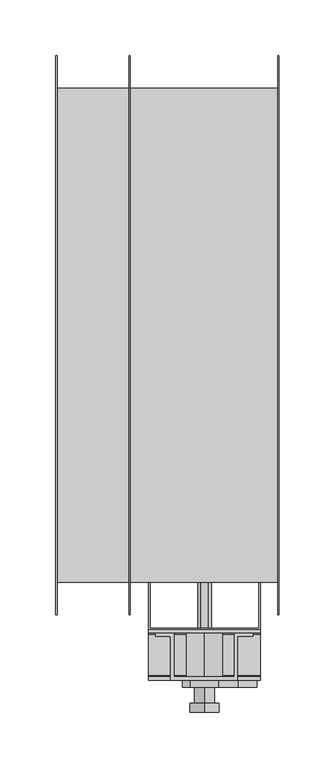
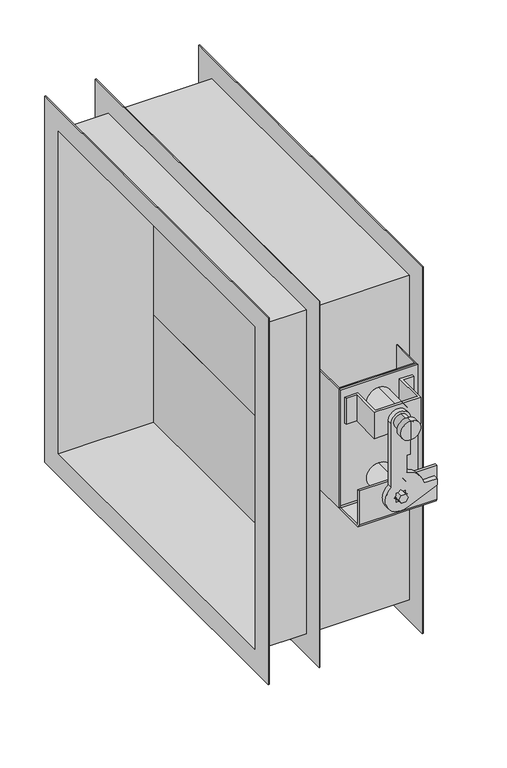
"""IFC4 building model written with IfcOpenShell, lengths in millimetres: damper geometry, СВ_КлапанПротивопожарныйЛифтовой_КДМ-2М-3-ЛС_НЗ_КанальныйПрямоугольный_СВОК : КДМ-3_Привод ЭМ."""

from ifc_helpers import new_model, si_unit, frame, origin, place, context, project, spatial, polyline, circle_curve, outline, extrude, faceted_brep, source, transform, mapped, element, save
from ifc_brep_helpers import plane_surface, cylinder_surface, revolved_surface, advanced_brep


def damper_64d2bc8e(model_context):
    return source(origin(), model_context, "Body", "SolidModel", [
        extrude(outline(polyline([(43.3, -220.0), (23.3, -220.0), (23.3, 220.0), (43.3, 220.0), (43.3, -220.0)])), frame((0.0, 0.0, 73.3333333), z_axis=(0.0, 0.0, 1.0), x_axis=(1.0, 0.0, 0.0)), (0.0, 0.0, 1.0), 146.6666667),
        extrude(outline(polyline([(43.3, -220.0), (23.3, -220.0), (23.3, 220.0), (43.3, 220.0), (43.3, -220.0)])), frame((0.0, 0.0, -73.3333333), z_axis=(0.0, 0.0, 1.0), x_axis=(1.0, 0.0, 0.0)), (0.0, 0.0, 1.0), 146.6666667),
        extrude(outline(polyline([(43.3, -220.0), (23.3, -220.0), (23.3, 220.0), (43.3, 220.0), (43.3, -220.0)])), frame((0.0, 0.0, -220.0), z_axis=(0.0, 0.0, 1.0), x_axis=(1.0, 0.0, 0.0)), (0.0, 0.0, 1.0), 146.6666667),
        extrude(outline(polyline([(-15.5298911, -221.2), (-15.5298911, -262.0), (82.1, -262.0), (82.1, -221.2), (83.3, -221.2), (83.3, -263.2), (-16.7298911, -263.2), (-16.7298911, -221.2), (-15.5298911, -221.2)])), frame((0.0, 0.0, -30.0), z_axis=(0.0, 0.0, 1.0), x_axis=(1.0, 0.0, 0.0)), (0.0, 0.0, 1.0), 162.5),
        advanced_brep(
        [(33.3, -337.2, 115.8717586), (33.3, -337.2, 90.1282414), (33.3, -337.2, 103.0), (33.3, -329.322975, 115.8717586), (33.3, -329.322975, 90.1282414), (33.3, -329.322975, 112.0972194), (33.3, -329.322975, 93.9027806), (33.3, -315.2, 112.0972194), (33.3, -315.2, 93.9027806), (33.3, -315.2, 103.0)],
        [
            (0, 1, circle_curve(frame((33.3, -337.2, 103.0), z_axis=(0.0, -1.0, 0.0), x_axis=(0.0, 0.0, -1.0)), 12.8717586)),
            (1, 2),
            (2, 0),
            (1, 0, circle_curve(frame((33.3, -337.2, 103.0), z_axis=(0.0, -1.0, 0.0), x_axis=(0.0, 0.0, -1.0)), 12.8717586)),
            (3, 4, circle_curve(frame((33.3, -329.322975, 103.0), z_axis=(0.0, -1.0, 0.0), x_axis=(0.0, 0.0, -1.0)), 12.8717586)),
            (4, 1),
            (0, 3),
            (4, 3, circle_curve(frame((33.3, -329.322975, 103.0), z_axis=(0.0, -1.0, 0.0), x_axis=(0.0, 0.0, -1.0)), 12.8717586)),
            (5, 6, circle_curve(frame((33.3, -329.322975, 103.0), z_axis=(0.0, -1.0, 0.0), x_axis=(0.0, 0.0, -1.0)), 9.0972194)),
            (6, 4),
            (3, 5),
            (6, 5, circle_curve(frame((33.3, -329.322975, 103.0), z_axis=(0.0, -1.0, 0.0), x_axis=(0.0, 0.0, -1.0)), 9.0972194)),
            (7, 8, circle_curve(frame((33.3, -315.2, 103.0), z_axis=(0.0, -1.0, 0.0), x_axis=(0.0, 0.0, -1.0)), 9.0972194)),
            (8, 6),
            (5, 7),
            (8, 7, circle_curve(frame((33.3, -315.2, 103.0), z_axis=(0.0, -1.0, 0.0), x_axis=(0.0, 0.0, -1.0)), 9.0972194)),
            (9, 8),
            (7, 9),
        ],
        [
            plane_surface(frame((33.3, -337.2, 103.0), z_axis=(0.0, -1.0, 0.0), x_axis=(0.0, 0.0, -1.0))),
            cylinder_surface(frame((33.3, -315.2, 103.0), z_axis=(0.0, 1.0, 0.0), x_axis=(0.0, 0.0, -1.0)), 12.8717586),
            plane_surface(frame((33.3, -329.322975, 103.0), z_axis=(0.0, 1.0, 0.0), x_axis=(0.0, 0.0, -1.0))),
            cylinder_surface(frame((33.3, -315.2, 103.0), z_axis=(0.0, 1.0, 0.0), x_axis=(0.0, 0.0, -1.0)), 9.0972194),
            plane_surface(frame((33.3, -315.2, 103.0), z_axis=(0.0, 1.0, 0.0), x_axis=(0.0, 0.0, -1.0))),
        ],
        [
            (0, [[1, 2, 3]]),
            (0, [[4, -3, -2]]),
            (1, [[5, 6, -1, 7]]),
            (1, [[8, -7, -4, -6]]),
            (2, [[9, 10, -5, 11]]),
            (2, [[12, -11, -8, -10]]),
            (3, [[13, 14, -9, 15]]),
            (3, [[16, -15, -12, -14]]),
            (4, [[17, -13, 18]]),
            (4, [[-18, -16, -17]]),
        ],
    ),
        advanced_brep(
        [(2.92629, -308.6632523, 120.900028), (62.92629, -308.6632523, 120.900028), (62.92629, -269.2, 120.900028), (76.4888336, -269.2, 120.900028), (76.4888336, -266.2, 120.900028), (59.92629, -266.2, 120.900028), (59.92629, -305.6632523, 120.900028), (32.92629, -305.6632523, 120.900028), (5.92629, -305.6632523, 120.900028), (5.92629, -266.2, 120.900028), (-10.6362537, -266.2, 120.900028), (-10.6362537, -269.2, 120.900028), (2.92629, -269.2, 120.900028), (2.92629, -308.6632523, 85.2906263), (2.92629, -269.2, 85.2906263), (-10.6362537, -269.2, 85.2906263), (-10.6362537, -266.2, 85.2906263), (5.92629, -266.2, 85.2906263), (5.92629, -305.6632523, 85.2906263), (32.92629, -305.6632523, 85.2906263), (59.92629, -305.6632523, 85.2906263), (59.92629, -266.2, 85.2906263), (76.4888336, -266.2, 85.2906263), (76.4888336, -269.2, 85.2906263), (62.92629, -269.2, 85.2906263), (62.92629, -308.6632523, 85.2906263), (45.7468236, -308.6632523, 85.2906263), (32.92629, -308.6632523, 85.2906263), (20.8531764, -308.6632523, 85.2906263), (32.92629, -305.6632523, 87.0153496), (33.3, -305.6632523, 87.0109817), (33.3, -305.6632523, 118.9890183), (32.92629, -305.6632523, 118.9846504), (20.8531764, -315.2, 103.0), (20.8531764, -315.2, 15.654922), (41.6218794, -315.2, -18.1864324), (80.0904973, -315.2, -0.5836838), (80.0904973, -315.2, 7.3717785), (63.5857987, -315.2, 7.3717785), (40.9533426, -315.2, 30.2158745), (40.9533426, -315.2, 53.0), (45.7468236, -315.2, 53.0), (45.7468236, -315.2, 103.0), (24.8147186, -315.2, 0.0), (27.3045537, -315.2, 2.4898351), (27.3045537, -315.2, 5.9954463), (30.8101649, -315.2, 5.9954463), (33.3, -315.2, 8.4852814), (35.7898351, -315.2, 5.9954463), (39.2954463, -315.2, 5.9954463), (39.2954463, -315.2, 2.4898351), (41.7852814, -315.2, 0.0), (39.2954463, -315.2, -2.4898351), (39.2954463, -315.2, -5.9954463), (35.7898351, -315.2, -5.9954463), (33.3, -315.2, -8.4852814), (30.8101649, -315.2, -5.9954463), (27.3045537, -315.2, -5.9954463), (27.3045537, -315.2, -2.4898351), (45.7468236, -308.6632523, 53.0), (40.9533426, -308.6632523, 53.0), (40.9533426, -308.6632523, 30.2158745), (56.6544986, -308.6632523, 20.6431616), (20.8531764, -308.6632523, 20.6431616), (45.7468236, -308.6632523, 103.0), (20.8531764, -308.6632523, 103.0), (20.8531764, -308.6632523, 15.654922), (41.6218794, -308.6632523, -18.1864324), (80.0904973, -308.6632523, -0.5836838), (80.0904973, -308.6632523, 7.3717785), (63.5857987, -308.6632523, 7.3717785), (33.3, -305.6632523, -15.9890183), (33.3, -266.2, -15.9890183), (33.3, -266.2, 15.9890183), (33.3, -305.6632523, 15.9890183), (33.3, -266.2, 87.0109817), (33.3, -266.2, 118.9890183), (83.3, -263.2, -25.5), (83.3, -263.2, 132.5), (83.3, -266.2, 132.5), (83.3, -266.2, -25.5), (83.3, -267.7, -27.0), (83.3, -304.1337407, -27.0), (83.3, -305.6632523, -25.4704884), (83.3, -305.6632523, 20.6431616), (83.3, -308.6632523, 20.6431616), (83.3, -308.6632523, -25.4704884), (83.3, -304.1337407, -30.0), (83.3, -267.7, -30.0), (-16.7, -263.2, -25.5), (-16.7, -267.7, -30.0), (-16.7, -304.1337407, -30.0), (-16.7, -308.6632523, -25.4704884), (-16.7, -308.6632523, 20.6431616), (-16.7, -305.6632523, 20.6431616), (-16.7, -305.6632523, -25.4704884), (-16.7, -304.1337407, -27.0), (-16.7, -267.7, -27.0), (-16.7, -266.2, -25.5), (-16.7, -266.2, 132.5), (-16.7, -263.2, 132.5), (27.3045537, -263.2, 2.4898351), (24.8147186, -263.2, 0.0), (27.3045537, -263.2, -2.4898351), (27.3045537, -263.2, -5.9954463), (30.8101649, -263.2, -5.9954463), (33.3, -263.2, -8.4852814), (35.7898351, -263.2, -5.9954463), (39.2954463, -263.2, -5.9954463), (39.2954463, -263.2, -2.4898351), (41.7852814, -263.2, 0.0), (39.2954463, -263.2, 2.4898351), (39.2954463, -263.2, 5.9954463), (35.7898351, -263.2, 5.9954463), (33.3, -263.2, 8.4852814), (30.8101649, -263.2, 5.9954463), (27.3045537, -263.2, 5.9954463)],
        [
            (0, 1),
            (1, 2),
            (2, 3),
            (3, 4),
            (4, 5),
            (5, 6),
            (6, 7),
            (7, 8),
            (8, 9),
            (9, 10),
            (10, 11),
            (11, 12),
            (12, 0),
            (13, 14),
            (14, 15),
            (15, 16),
            (16, 17),
            (17, 18),
            (18, 19),
            (19, 20),
            (20, 21),
            (21, 22),
            (22, 23),
            (23, 24),
            (24, 25),
            (25, 26),
            (26, 27),
            (27, 28),
            (28, 13),
            (1, 25),
            (24, 2),
            (23, 3),
            (22, 4),
            (5, 21),
            (20, 6),
            (19, 29),
            (29, 30, circle_curve(frame((33.3, -305.6632523, 103.0), z_axis=(0.0, -1.0, 0.0), x_axis=(0.0, 0.0, 1.0)), 15.9890183)),
            (30, 31, circle_curve(frame((33.3, -305.6632523, 103.0), z_axis=(0.0, -1.0, 0.0), x_axis=(0.0, 0.0, 1.0)), 15.9890183)),
            (31, 32, circle_curve(frame((33.3, -305.6632523, 103.0), z_axis=(0.0, -1.0, 0.0), x_axis=(0.0, 0.0, 1.0)), 15.9890183)),
            (32, 7),
            (32, 29, circle_curve(frame((33.3, -305.6632523, 103.0), z_axis=(0.0, -1.0, 0.0), x_axis=(0.0, 0.0, 1.0)), 15.9890183)),
            (18, 8),
            (17, 9),
            (10, 16),
            (15, 11),
            (14, 12),
            (13, 0),
            (33, 34),
            (34, 35, circle_curve(frame((33.3, -315.2, 0.0), z_axis=(0.0, -1.0, 0.0), x_axis=(0.0, 0.0, 1.0)), 20.0)),
            (35, 36),
            (36, 37),
            (37, 38),
            (38, 39, circle_curve(frame((33.3, -315.2, 0.0), z_axis=(0.0, -1.0, 0.0), x_axis=(0.0, 0.0, 1.0)), 31.1700613)),
            (39, 40),
            (40, 41),
            (41, 42),
            (42, 33, circle_curve(frame((33.3, -315.2, 103.0), z_axis=(0.0, -1.0, 0.0), x_axis=(0.0, 0.0, 1.0)), 12.4468236)),
            (43, 44),
            (44, 45),
            (45, 46),
            (46, 47),
            (47, 48),
            (48, 49),
            (49, 50),
            (50, 51),
            (51, 52),
            (52, 53),
            (53, 54),
            (54, 55),
            (55, 56),
            (56, 57),
            (57, 58),
            (58, 43),
            (59, 60),
            (60, 61),
            (61, 62, circle_curve(frame((33.3, -308.6632523, 0.0), z_axis=(0.0, 1.0, 0.0), x_axis=(0.0, 0.0, 1.0)), 31.1700613)),
            (62, 63),
            (63, 28),
            (26, 59),
            (42, 64),
            (64, 65, circle_curve(frame((33.3, -308.6632523, 103.0), z_axis=(0.0, -1.0, 0.0), x_axis=(0.0, 0.0, 1.0)), 12.4468236)),
            (65, 33),
            (34, 66),
            (66, 67, circle_curve(frame((33.3, -308.6632523, 0.0), z_axis=(0.0, -1.0, 0.0), x_axis=(0.0, 0.0, 1.0)), 20.0)),
            (67, 35),
            (65, 28),
            (63, 66),
            (36, 68),
            (68, 69),
            (69, 37),
            (69, 70),
            (70, 38),
            (70, 62, circle_curve(frame((33.3, -308.6632523, 0.0), z_axis=(0.0, -1.0, 0.0), x_axis=(0.0, 0.0, 1.0)), 31.1700613)),
            (61, 39),
            (60, 40),
            (59, 41),
            (26, 64),
            (71, 72),
            (72, 73, circle_curve(frame((33.3, -266.2, 0.0), z_axis=(0.0, -1.0, 0.0), x_axis=(0.0, 0.0, 1.0)), 15.9890183)),
            (73, 74),
            (74, 71, circle_curve(frame((33.3, -305.6632523, 0.0), z_axis=(0.0, 1.0, 0.0), x_axis=(0.0, 0.0, 1.0)), 15.9890183)),
            (71, 74, circle_curve(frame((33.3, -305.6632523, 0.0), z_axis=(0.0, 1.0, 0.0), x_axis=(0.0, 0.0, 1.0)), 15.9890183)),
            (73, 72, circle_curve(frame((33.3, -266.2, 0.0), z_axis=(0.0, -1.0, 0.0), x_axis=(0.0, 0.0, 1.0)), 15.9890183)),
            (75, 76, circle_curve(frame((33.3, -266.2, 103.0), z_axis=(0.0, -1.0, 0.0), x_axis=(0.0, 0.0, 1.0)), 15.9890183)),
            (76, 31),
            (30, 75),
            (76, 75, circle_curve(frame((33.3, -266.2, 103.0), z_axis=(0.0, -1.0, 0.0), x_axis=(0.0, 0.0, 1.0)), 15.9890183)),
            (77, 78),
            (78, 79),
            (79, 80),
            (80, 81, circle_curve(frame((83.3, -267.7, -25.5), z_axis=(-1.0, 0.0, 0.0), x_axis=(0.0, 0.0, 1.0)), 1.5)),
            (81, 82),
            (82, 83, circle_curve(frame((83.3, -304.1337407, -25.4704884), z_axis=(-1.0, 0.0, 0.0), x_axis=(0.0, 0.0, 1.0)), 1.5295116)),
            (83, 84),
            (84, 85),
            (85, 86),
            (86, 87, circle_curve(frame((83.3, -304.1337407, -25.4704884), z_axis=(1.0, 0.0, 0.0), x_axis=(0.0, 0.0, 1.0)), 4.5295116)),
            (87, 88),
            (88, 77, circle_curve(frame((83.3, -267.7, -25.5), z_axis=(1.0, 0.0, 0.0), x_axis=(0.0, 0.0, 1.0)), 4.5)),
            (89, 90, circle_curve(frame((-16.7, -267.7, -25.5), z_axis=(-1.0, 0.0, 0.0), x_axis=(0.0, 0.0, 1.0)), 4.5)),
            (90, 91),
            (91, 92, circle_curve(frame((-16.7, -304.1337407, -25.4704884), z_axis=(-1.0, 0.0, 0.0), x_axis=(0.0, 0.0, 1.0)), 4.5295116)),
            (92, 93),
            (93, 94),
            (94, 95),
            (95, 96, circle_curve(frame((-16.7, -304.1337407, -25.4704884), z_axis=(1.0, 0.0, 0.0), x_axis=(0.0, 0.0, 1.0)), 1.5295116)),
            (96, 97),
            (97, 98, circle_curve(frame((-16.7, -267.7, -25.5), z_axis=(1.0, 0.0, 0.0), x_axis=(0.0, 0.0, 1.0)), 1.5)),
            (98, 99),
            (99, 100),
            (100, 89),
            (77, 89),
            (100, 78),
            (101, 102),
            (102, 103),
            (103, 104),
            (104, 105),
            (105, 106),
            (106, 107),
            (107, 108),
            (108, 109),
            (109, 110),
            (110, 111),
            (111, 112),
            (112, 113),
            (113, 114),
            (114, 115),
            (115, 116),
            (116, 101),
            (99, 79),
            (98, 80),
            (97, 81),
            (96, 82),
            (95, 83),
            (94, 84),
            (93, 63),
            (62, 85),
            (68, 67),
            (92, 86),
            (91, 87),
            (90, 88),
            (101, 44),
            (43, 102),
            (58, 103),
            (57, 104),
            (56, 105),
            (55, 106),
            (54, 107),
            (53, 108),
            (52, 109),
            (51, 110),
            (50, 111),
            (49, 112),
            (48, 113),
            (47, 114),
            (46, 115),
            (45, 116),
        ],
        [
            plane_surface(frame((2.92629, -308.6632523, 120.900028), z_axis=(0.0, 0.0, 1.0), x_axis=(1.0, 0.0, 0.0))),
            plane_surface(frame((2.92629, -308.6632523, 85.2906263), z_axis=(0.0, 0.0, -1.0), x_axis=(-1.0, 0.0, 0.0))),
            plane_surface(frame((62.92629, -308.6632523, 120.900028), z_axis=(1.0, 0.0, 0.0), x_axis=(0.0, 0.0, -1.0))),
            plane_surface(frame((62.92629, -269.2, 120.900028), z_axis=(0.0, -1.0, 0.0), x_axis=(0.0, 0.0, -1.0))),
            plane_surface(frame((76.4888336, -269.2, 120.900028), z_axis=(1.0, 0.0, 0.0), x_axis=(0.0, 0.0, -1.0))),
            plane_surface(frame((59.92629, -266.2, 120.900028), z_axis=(-1.0, 0.0, 0.0), x_axis=(0.0, 0.0, -1.0))),
            plane_surface(frame((59.92629, -305.6632523, 120.900028), z_axis=(0.0, 1.0, 0.0), x_axis=(0.0, 0.0, -1.0))),
            plane_surface(frame((32.92629, -305.6632523, 120.900028), z_axis=(0.0, 1.0, 0.0), x_axis=(0.0, 0.0, -1.0))),
            plane_surface(frame((5.92629, -305.6632523, 120.900028), z_axis=(1.0, 0.0, 0.0), x_axis=(0.0, 0.0, -1.0))),
            plane_surface(frame((-10.6362537, -266.2, 120.900028), z_axis=(-1.0, 0.0, 0.0), x_axis=(0.0, 0.0, -1.0))),
            plane_surface(frame((-10.6362537, -269.2, 120.900028), z_axis=(0.0, -1.0, 0.0), x_axis=(0.0, 0.0, -1.0))),
            plane_surface(frame((2.92629, -269.2, 120.900028), z_axis=(-1.0, 0.0, 0.0), x_axis=(0.0, 0.0, -1.0))),
            plane_surface(frame((20.8531764, -315.2, 103.0), z_axis=(0.0, -1.0, 0.0), x_axis=(0.0, 0.0, -1.0))),
            plane_surface(frame((20.8531764, -308.6632523, 103.0), z_axis=(0.0, 1.0, 0.0), x_axis=(0.0, 0.0, 1.0))),
            cylinder_surface(frame((33.3, -308.6632523, 103.0), z_axis=(0.0, -1.0, 0.0), x_axis=(0.0, 0.0, 1.0)), 12.4468236),
            cylinder_surface(frame((33.3, -308.6632523, 0.0), z_axis=(0.0, -1.0, 0.0), x_axis=(0.0, 0.0, 1.0)), 20.0),
            plane_surface(frame((20.8531764, -315.2, 103.0), z_axis=(-1.0, 0.0, 0.0), x_axis=(0.0, 1.0, 0.0))),
            plane_surface(frame((80.0904973, -315.2, -0.5836838), z_axis=(1.0, 0.0, 0.0), x_axis=(0.0, 1.0, 0.0))),
            plane_surface(frame((80.0904973, -315.2, 7.3717785), z_axis=(0.0, 0.0, 1.0), x_axis=(0.0, 1.0, 0.0))),
            cylinder_surface(frame((33.3, -308.6632523, 0.0), z_axis=(0.0, -1.0, 0.0), x_axis=(0.0, 0.0, 1.0)), 31.1700613),
            plane_surface(frame((40.9533426, -315.2, 30.2158745), z_axis=(1.0, 0.0, 0.0), x_axis=(0.0, 1.0, 0.0))),
            plane_surface(frame((40.9533426, -315.2, 53.0), z_axis=(0.0, 0.0, -1.0), x_axis=(0.0, 1.0, 0.0))),
            plane_surface(frame((45.7468236, -315.2, 53.0), z_axis=(1.0, 0.0, 0.0), x_axis=(0.0, 1.0, 0.0))),
            plane_surface(frame((33.3, -308.6632523, 15.9890183), z_axis=(0.0, -1.0, 0.0), x_axis=(-1.0, 0.0, 0.0))),
            cylinder_surface(frame((33.3, -266.2, 0.0), z_axis=(0.0, -1.0, 0.0), x_axis=(0.0, 0.0, 1.0)), 15.9890183),
            cylinder_surface(frame((33.3, -221.2, 103.0), z_axis=(0.0, -1.0, 0.0), x_axis=(0.0, 0.0, 1.0)), 15.9890183),
            plane_surface(frame((83.3, -263.2, 132.5), z_axis=(1.0, 0.0, 0.0), x_axis=(0.0, 0.0, 1.0))),
            plane_surface(frame((-16.7, -263.2, 132.5), z_axis=(-1.0, 0.0, 0.0), x_axis=(0.0, 0.0, -1.0))),
            plane_surface(frame((83.3, -263.2, -25.5), z_axis=(0.0, 1.0, 0.0), x_axis=(-1.0, 0.0, 0.0))),
            plane_surface(frame((83.3, -263.2, 132.5), z_axis=(0.0, 0.0, 1.0), x_axis=(-1.0, 0.0, 0.0))),
            plane_surface(frame((83.3, -266.2, 132.5), z_axis=(0.0, -1.0, 0.0), x_axis=(-1.0, 0.0, 0.0))),
            revolved_surface(polyline([(-16.7, -267.7, -24.0), (83.3, -267.7, -24.0)]), (-16.7, -267.7, -25.5), (-1.0, 0.0, 0.0)),
            plane_surface(frame((83.3, -267.7, -27.0), z_axis=(0.0, 0.0, 1.0), x_axis=(-1.0, 0.0, 0.0))),
            revolved_surface(polyline([(-16.7, -304.1337407, -23.9409768), (83.3, -304.1337407, -23.9409768)]), (-16.7, -304.1337407, -25.4704884), (-1.0, 0.0, 0.0)),
            plane_surface(frame((83.3, -305.6632523, -25.4704884), z_axis=(0.0, 1.0, 0.0), x_axis=(-1.0, 0.0, 0.0))),
            plane_surface(frame((83.3, -305.6632523, 20.6431616), z_axis=(0.0, 0.0, 1.0), x_axis=(-1.0, 0.0, 0.0))),
            plane_surface(frame((83.3, -308.6632523, 20.6431616), z_axis=(0.0, -1.0, 0.0), x_axis=(-1.0, 0.0, 0.0))),
            cylinder_surface(frame((-16.7, -304.1337407, -25.4704884), z_axis=(1.0, 0.0, 0.0), x_axis=(0.0, 0.0, 1.0)), 4.5295116),
            plane_surface(frame((83.3, -304.1337407, -30.0), z_axis=(0.0, 0.0, -1.0), x_axis=(-1.0, 0.0, 0.0))),
            cylinder_surface(frame((-16.7, -267.7, -25.5), z_axis=(1.0, 0.0, 0.0), x_axis=(0.0, 0.0, 1.0)), 4.5),
            plane_surface(frame((41.6218794, -315.2, -18.1864324), z_axis=(0.4160939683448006, 0.0, -0.9093216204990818), x_axis=(0.0, 1.0, 0.0))),
            plane_surface(frame((27.3045537, -321.2, 2.4898351), z_axis=(0.7071067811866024, 0.0, -0.7071067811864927), x_axis=(0.0, 1.0, 0.0))),
            plane_surface(frame((24.8147186, -321.2, 0.0), z_axis=(0.7071067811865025, 0.0, 0.7071067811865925), x_axis=(0.0, 1.0, 0.0))),
            plane_surface(frame((27.3045537, -321.2, -2.4898351), z_axis=(1.0, 0.0, 0.0), x_axis=(0.0, 1.0, 0.0))),
            plane_surface(frame((27.3045537, -321.2, -5.9954463), z_axis=(0.0, 0.0, 1.0), x_axis=(0.0, 1.0, 0.0))),
            plane_surface(frame((30.8101649, -321.2, -5.9954463), z_axis=(0.707106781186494, 0.0, 0.7071067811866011), x_axis=(0.0, 1.0, 0.0))),
            plane_surface(frame((33.3, -321.2, -8.4852814), z_axis=(-0.7071067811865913, 0.0, 0.7071067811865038), x_axis=(0.0, 1.0, 0.0))),
            plane_surface(frame((35.7898351, -321.2, -5.9954463), z_axis=(0.0, 0.0, 1.0), x_axis=(0.0, 1.0, 0.0))),
            plane_surface(frame((39.2954463, -321.2, -5.9954463), z_axis=(-1.0, 0.0, 0.0), x_axis=(0.0, 1.0, 0.0))),
            plane_surface(frame((39.2954463, -321.2, -2.4898351), z_axis=(-0.7071067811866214, 0.0, 0.7071067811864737), x_axis=(0.0, 1.0, 0.0))),
            plane_surface(frame((41.7852814, -321.2, 0.0), z_axis=(-0.7071067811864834, 0.0, -0.7071067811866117), x_axis=(0.0, 1.0, 0.0))),
            plane_surface(frame((39.2954463, -321.2, 2.4898351), z_axis=(-1.0, 0.0, 0.0), x_axis=(0.0, 1.0, 0.0))),
            plane_surface(frame((39.2954463, -321.2, 5.9954463), z_axis=(0.0, 0.0, -1.0), x_axis=(0.0, 1.0, 0.0))),
            plane_surface(frame((35.7898351, -321.2, 5.9954463), z_axis=(-0.7071067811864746, 0.0, -0.7071067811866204), x_axis=(0.0, 1.0, 0.0))),
            plane_surface(frame((33.3, -321.2, 8.4852814), z_axis=(0.7071067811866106, 0.0, -0.7071067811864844), x_axis=(0.0, 1.0, 0.0))),
            plane_surface(frame((30.8101649, -321.2, 5.9954463), z_axis=(0.0, 0.0, -1.0), x_axis=(0.0, 1.0, 0.0))),
            plane_surface(frame((27.3045537, -321.2, 5.9954463), z_axis=(1.0, 0.0, 0.0), x_axis=(0.0, 1.0, 0.0))),
        ],
        [
            (0, [[1, 2, 3, 4, 5, 6, 7, 8, 9, 10, 11, 12, 13]]),
            (1, [[14, 15, 16, 17, 18, 19, 20, 21, 22, 23, 24, 25, 26, 27, 28, 29]]),
            (2, [[-2, 30, -25, 31]]),
            (3, [[-3, -31, -24, 32]]),
            (4, [[-4, -32, -23, 33]]),
            (5, [[-6, 34, -21, 35]]),
            (6, [[-7, -35, -20, 36, 37, 38, 39, 40]]),
            (7, [[-8, -40, 41, -36, -19, 42]]),
            (8, [[-9, -42, -18, 43]]),
            (9, [[-11, 44, -16, 45]]),
            (10, [[-12, -45, -15, 46]]),
            (11, [[-13, -46, -14, 47]]),
            (12, [[48, 49, 50, 51, 52, 53, 54, 55, 56, 57], [58, 59, 60, 61, 62, 63, 64, 65, 66, 67, 68, 69, 70, 71, 72, 73]]),
            (13, [[74, 75, 76, 77, 78, -28, -27, 79]]),
            (14, [[-57, 80, 81, 82]]),
            (15, [[-49, 83, 84, 85]]),
            (16, [[-48, -82, 86, -78, 87, -83]]),
            (17, [[-51, 88, 89, 90]]),
            (18, [[-52, -90, 91, 92]]),
            (19, [[-53, -92, 93, -76, 94]]),
            (20, [[-54, -94, -75, 95]]),
            (21, [[-55, -95, -74, 96]]),
            (22, [[-56, -96, -79, 97, -80]]),
            (23, [[-26, -30, -1, -47, -29, -86, -81, -97]]),
            (24, [[98, 99, 100, 101]]),
            (24, [[-98, 102, -100, 103]]),
            (25, [[104, 105, -38, 106]]),
            (25, [[107, -106, -37, -41, -39, -105]]),
            (26, [[108, 109, 110, 111, 112, 113, 114, 115, 116, 117, 118, 119]]),
            (27, [[120, 121, 122, 123, 124, 125, 126, 127, 128, 129, 130, 131]]),
            (28, [[-108, 132, -131, 133], [134, 135, 136, 137, 138, 139, 140, 141, 142, 143, 144, 145, 146, 147, 148, 149]]),
            (29, [[-109, -133, -130, 150]]),
            (30, [[-110, -150, -129, 151], [-99, -103], [-104, -107], [-5, -33, -22, -34], [-10, -43, -17, -44]]),
            (31, [[-111, -151, -128, 152]]),
            (32, [[-112, -152, -127, 153]]),
            (33, [[-113, -153, -126, 154]]),
            (34, [[-114, -154, -125, 155], [-101, -102]]),
            (35, [[-115, -155, -124, 156, -77, 157]]),
            (36, [[-116, -157, -93, -91, -89, 158, -84, -87, -156, -123, 159]]),
            (37, [[-117, -159, -122, 160]]),
            (38, [[-118, -160, -121, 161]]),
            (39, [[-119, -161, -120, -132]]),
            (40, [[-50, -85, -158, -88]]),
            (41, [[162, -58, 163, -134]]),
            (42, [[-163, -73, 164, -135]]),
            (43, [[-164, -72, 165, -136]]),
            (44, [[-165, -71, 166, -137]]),
            (45, [[-166, -70, 167, -138]]),
            (46, [[-167, -69, 168, -139]]),
            (47, [[-168, -68, 169, -140]]),
            (48, [[-169, -67, 170, -141]]),
            (49, [[-170, -66, 171, -142]]),
            (50, [[-171, -65, 172, -143]]),
            (51, [[-172, -64, 173, -144]]),
            (52, [[-173, -63, 174, -145]]),
            (53, [[-174, -62, 175, -146]]),
            (54, [[-175, -61, 176, -147]]),
            (55, [[-176, -60, 177, -148]]),
            (56, [[-162, -149, -177, -59]]),
        ],
    ),
        extrude(outline(polyline([(5.1832695, 36.2925621), (5.1832695, 30.3074379), (0.0, 27.3148759), (-5.1832695, 30.3074379), (-5.1832695, 36.2925621), (0.0, 39.2851241), (5.1832695, 36.2925621)])), frame((0.0, -321.2, 0.0), z_axis=(0.0, 1.0, 0.0), x_axis=(0.0, 0.0, 1.0)), (0.0, 0.0, 1.0), 100.0),
        faceted_brep([(-100.0, -250.0, 250.0), (-100.0, 250.0, 250.0), (-100.0, 250.0, -250.0), (-100.0, -250.0, -250.0), (-100.0, -220.0, 220.0), (-100.0, -220.0, -220.0), (-100.0, 220.0, -220.0), (-100.0, 220.0, 220.0), (-98.8, -250.0, 250.0), (-98.8, -250.0, -250.0), (-98.8, 250.0, -250.0), (-98.8, 250.0, 250.0), (-98.8, -221.2, 221.2), (-98.8, 221.2, 221.2), (-98.8, 221.2, -221.2), (-98.8, -221.2, -221.2), (100.0, -250.0, 250.0), (100.0, -250.0, -250.0), (100.0, 250.0, -250.0), (100.0, 250.0, 250.0), (100.0, -220.0, 220.0), (100.0, 220.0, 220.0), (100.0, 220.0, -220.0), (100.0, -220.0, -220.0), (-34.5333333, -221.2, 221.2), (-34.5333333, 221.2, 221.2), (98.8, -221.2, 221.2), (98.8, 221.2, 221.2), (-33.3333333, 221.2, 221.2), (-33.3333333, -221.2, 221.2), (-34.5333333, -221.2, -221.2), (98.8, -221.2, -221.2), (-33.3333333, -221.2, -221.2), (-34.5333333, 221.2, -221.2), (98.8, 221.2, -221.2), (-33.3333333, 221.2, -221.2), (-34.5333333, 220.0, 220.0), (-33.3333333, 220.0, 220.0), (98.8, 220.0, 220.0), (98.8, -220.0, 220.0), (-33.3333333, -220.0, 220.0), (-34.5333333, -220.0, 220.0), (-34.5333333, 220.0, -220.0), (-33.3333333, 220.0, -220.0), (98.8, 220.0, -220.0), (-34.5333333, -220.0, -220.0), (-33.3333333, -220.0, -220.0), (98.8, -220.0, -220.0), (98.8, -250.0, 250.0), (98.8, 250.0, 250.0), (98.8, 250.0, -250.0), (98.8, -250.0, -250.0), (-34.5333333, -250.0, 250.0), (-34.5333333, 250.0, 250.0), (-34.5333333, 250.0, -250.0), (-34.5333333, -250.0, -250.0), (-33.3333333, -250.0, 250.0), (-33.3333333, -250.0, -250.0), (-33.3333333, 250.0, -250.0), (-33.3333333, 250.0, 250.0)], [[[0, 1, 2, 3], [4, 5, 6, 7]], [[8, 9, 10, 11], [12, 13, 14, 15]], [[16, 17, 18, 19], [20, 21, 22, 23]], [[13, 12, 24, 25]], [[26, 27, 28, 29]], [[12, 15, 30, 24]], [[31, 26, 29, 32]], [[15, 14, 33, 30]], [[34, 31, 32, 35]], [[14, 13, 25, 33]], [[27, 34, 35, 28]], [[4, 7, 36, 37, 38, 21, 20, 39, 40, 41]], [[7, 6, 42, 43, 44, 22, 21, 38, 37, 36]], [[6, 5, 45, 46, 47, 23, 22, 44, 43, 42]], [[5, 4, 41, 40, 39, 20, 23, 47, 46, 45]], [[0, 3, 9, 8]], [[3, 2, 10, 9]], [[2, 1, 11, 10]], [[1, 0, 8, 11]], [[48, 49, 50, 51], [27, 26, 31, 34]], [[48, 51, 17, 16]], [[51, 50, 18, 17]], [[50, 49, 19, 18]], [[49, 48, 16, 19]], [[52, 53, 54, 55], [25, 24, 30, 33]], [[56, 57, 58, 59], [29, 28, 35, 32]], [[52, 55, 57, 56]], [[55, 54, 58, 57]], [[54, 53, 59, 58]], [[53, 52, 56, 59]]]),
    ])


if __name__ == "__main__":
    model = new_model("IFC4")
    model_context = context("Model", 3, world=origin())
    ifc_project = project(units=[si_unit("LENGTHUNIT", "METRE", prefix="MILLI")], contexts=[model_context])
    site = spatial("IfcSite", under=ifc_project)
    building = spatial("IfcBuilding", under=site)
    placement = place(None, origin())
    damper_shape = damper_64d2bc8e(model_context)
    element("IfcDamper", 1, ObjectType="СВ_КлапанПротивопожарныйЛифтовой_КДМ-2М-3-ЛС_НЗ_КанальныйПрямоугольный_СВОК : КДМ-3_Привод ЭМ", at=placement, inside=building, context=model_context, shape_type="MappedRepresentation", body=[
        mapped(damper_shape, transform((0.0, 0.0, 0.0), x_axis=(1.0, 0.0, 0.0), y_axis=(0.0, 1.0, 0.0), z_axis=(0.0, 0.0, 1.0))),
    ])
    save(model, "model.ifc")
